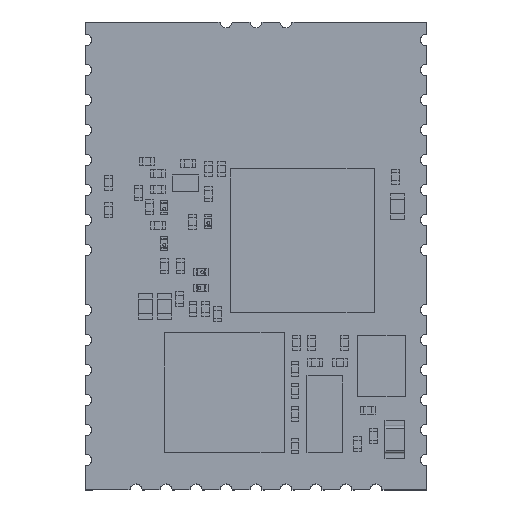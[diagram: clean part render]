
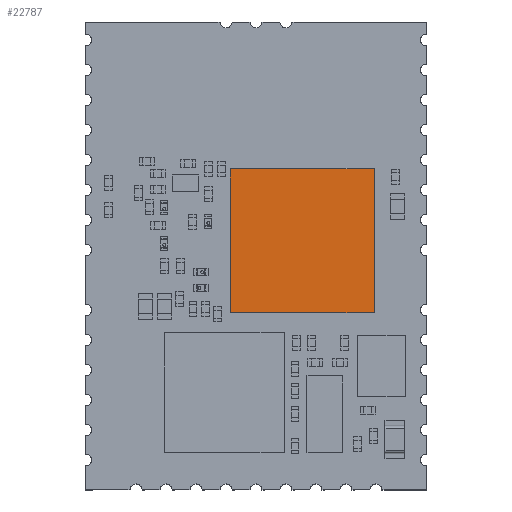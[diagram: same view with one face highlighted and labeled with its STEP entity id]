
A CAD part, top view. The second image highlights one B-rep face of the part: STEP entity #22787.
In plain terms, the highlighted planar face has unit normal (0, 0, 1).
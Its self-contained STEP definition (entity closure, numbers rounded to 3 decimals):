
#22658 = VERTEX_POINT('',#22659);
#22659 = CARTESIAN_POINT('',(-3.,-3.,1.));
#22665 = EDGE_CURVE('',#22658,#22666,#22668,.T.);
#22666 = VERTEX_POINT('',#22667);
#22667 = CARTESIAN_POINT('',(3.,-3.,1.));
#22668 = LINE('',#22669,#22670);
#22669 = CARTESIAN_POINT('',(-3.,-3.,1.));
#22670 = VECTOR('',#22671,1.);
#22671 = DIRECTION('',(1.,0.,0.));
#22696 = EDGE_CURVE('',#22666,#22697,#22699,.T.);
#22697 = VERTEX_POINT('',#22698);
#22698 = CARTESIAN_POINT('',(3.,3.,1.));
#22699 = LINE('',#22700,#22701);
#22700 = CARTESIAN_POINT('',(3.,-3.,1.));
#22701 = VECTOR('',#22702,1.);
#22702 = DIRECTION('',(0.,1.,0.));
#22727 = EDGE_CURVE('',#22697,#22728,#22730,.T.);
#22728 = VERTEX_POINT('',#22729);
#22729 = CARTESIAN_POINT('',(-3.,3.,1.));
#22730 = LINE('',#22731,#22732);
#22731 = CARTESIAN_POINT('',(3.,3.,1.));
#22732 = VECTOR('',#22733,1.);
#22733 = DIRECTION('',(-1.,0.,0.));
#22758 = EDGE_CURVE('',#22728,#22658,#22759,.T.);
#22759 = LINE('',#22760,#22761);
#22760 = CARTESIAN_POINT('',(-3.,3.,1.));
#22761 = VECTOR('',#22762,1.);
#22762 = DIRECTION('',(0.,-1.,0.));
#22787 = ADVANCED_FACE('',(#22788),#22794,.F.);
#22788 = FACE_BOUND('',#22789,.T.);
#22789 = EDGE_LOOP('',(#22790,#22791,#22792,#22793));
#22790 = ORIENTED_EDGE('',*,*,#22665,.T.);
#22791 = ORIENTED_EDGE('',*,*,#22696,.T.);
#22792 = ORIENTED_EDGE('',*,*,#22727,.T.);
#22793 = ORIENTED_EDGE('',*,*,#22758,.T.);
#22794 = PLANE('',#22795);
#22795 = AXIS2_PLACEMENT_3D('',#22796,#22797,#22798);
#22796 = CARTESIAN_POINT('',(-3.,-3.,1.));
#22797 = DIRECTION('',(0.,0.,-1.));
#22798 = DIRECTION('',(-1.,0.,0.));
